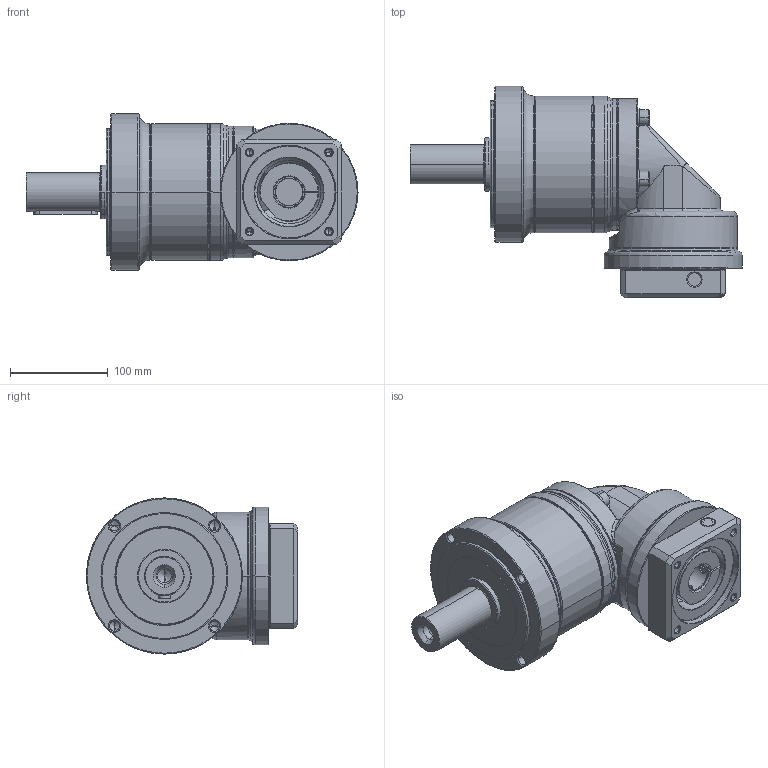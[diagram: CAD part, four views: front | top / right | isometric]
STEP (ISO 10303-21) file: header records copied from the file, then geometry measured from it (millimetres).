
FILE_DESCRIPTION((''),'2;1');
FILE_NAME('PG2R-160_1ST_28-P0411600101_ASM','2016-04-26T',('d01943'),(''),'PRO/ENGINEER BY PARAMETRIC TECHNOLOGY CORPORATION, 2008410','PRO/ENGINEER BY PARAMETRIC TECHNOLOGY CORPORATION, 2008410','');
FILE_SCHEMA(('CONFIG_CONTROL_DESIGN'));
Length unit declared in the file: millimetre
Products named in the file (12): P1325510001; P0250500001; P0350501103; P1349500001; P1017500001; P0713502001; P0503600008; P1350500201; P0411600101; P1702500001; 2111BA10040; PG2R-160_1ST_28-P0411600101_ASM
Assembly tree (14 placements, depth 2):
  PG2R-160_1ST_28-P0411600101_ASM
    P1325510001
    P0250500001
    P0350501103
    P1349500001
    P1017500001
    P0713502001
    P0503600008
    P1350500201
    P0411600101
    P1702500001
    2111BA10040  x4
Bounding box: 340 x 216.5 x 160 mm (x, y, z)
Volume: 2721583.1 mm3; surface area: 448792.1 mm2
Topology: 14 solids, 15 shells, 701 faces, 1543 edges, 896 vertices
Faces by surface type: cylinder 215, cone 194, plane 156, torus 104, bspline 32
Entity records: 22321 total; most frequent: CARTESIAN_POINT 8810, DIRECTION 2997, ORIENTED_EDGE 2610, EDGE_CURVE 1305, AXIS2_PLACEMENT_3D 1269, VERTEX_POINT 776, EDGE_LOOP 679, CIRCLE 673
